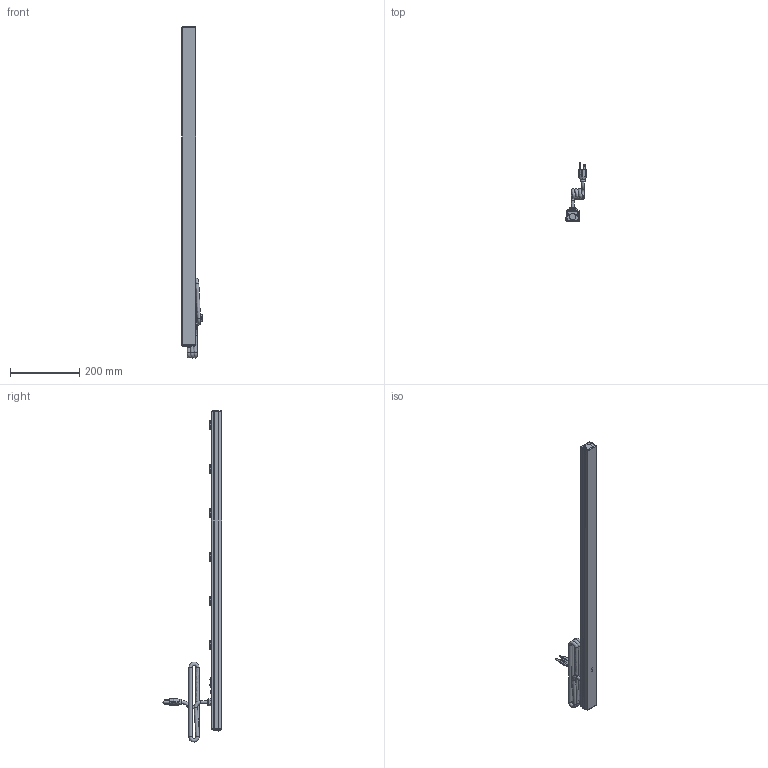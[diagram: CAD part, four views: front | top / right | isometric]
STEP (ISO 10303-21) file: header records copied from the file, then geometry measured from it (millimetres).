
FILE_DESCRIPTION((''),'2;1');
FILE_NAME('E:\Dutton\Manufacturing\drawings\Updated 2009\Vertical Rack Mount Strips\1585 Series\STEP''s\15853H6A1.stp','2010-01-19T07:44:07',('tfoster'),(''),'Autodesk Inventor 2010','Autodesk Inventor 2010','');
FILE_SCHEMA(('AUTOMOTIVE_DESIGN { 1 0 10303 214 1 1 1 1 }'));
Products named in the file (14): 15853H6A1; 15853H6 top; 15853 bottom; End Cap; End Cap w breaker; Reset Switch; #6 - 0.375 Type A screw; Cored 2; toothwasher; round head 1-way 8-32 x 0.5 screw; Power Switch Assembly; Power Switch; Power Switch pt; Receptacle
Assembly tree (21 placements, depth 3):
  15853H6A1
    15853H6 top
    15853 bottom
    End Cap
    End Cap w breaker
    Reset Switch
    #6 - 0.375 Type A screw  x4
    Cored 2
    toothwasher
    round head 1-way 8-32 x 0.5 screw
    Power Switch Assembly
      Power Switch
      Power Switch pt
    Receptacle  x6
Bounding box: 60.19 x 170.82 x 957.97 mm (x, y, z)
Volume: 408884.7 mm3; surface area: 374076.3 mm2
Topology: 20 solids, 20 shells, 1017 faces, 2978 edges, 2003 vertices
Faces by surface type: plane 588, cylinder 222, bspline 139, sphere 30, cone 23, torus 15
Full cylindrical faces by diameter (mm): 1 x2, 1.803 x3, 1.905 x2, 3 x2, 3.175 x12, 4.3 x1, 4.775 x1, 4.826 x1, 7.849 x1, 9.5 x5, 11 x1, 15.621 x1, 19.05 x2
Entity records: 26917 total; most frequent: CARTESIAN_POINT 9654, ORIENTED_EDGE 3740, DIRECTION 3085, EDGE_CURVE 1870, VERTEX_POINT 1320, VECTOR 1077, LINE 1077, AXIS2_PLACEMENT_3D 1004
